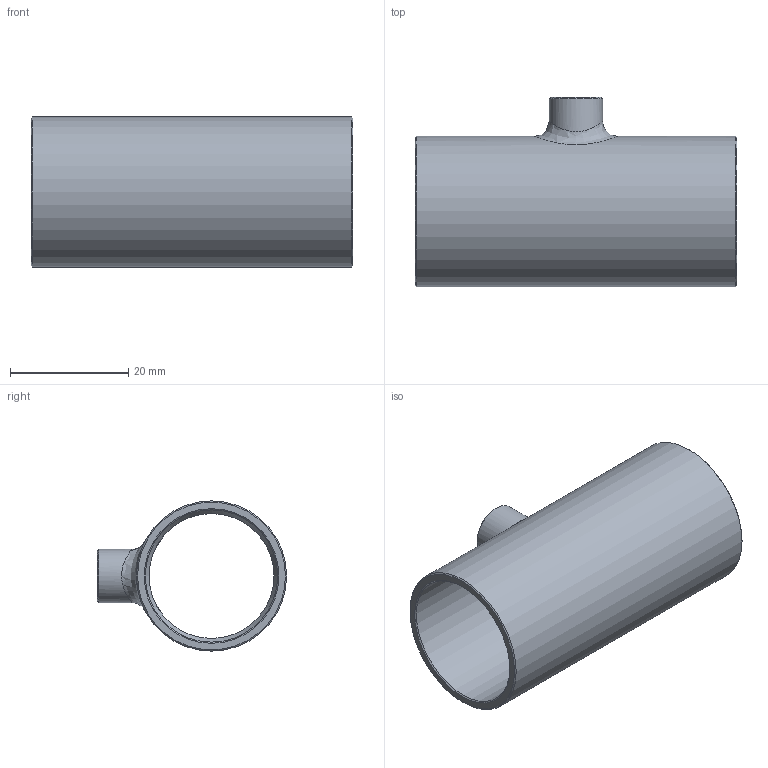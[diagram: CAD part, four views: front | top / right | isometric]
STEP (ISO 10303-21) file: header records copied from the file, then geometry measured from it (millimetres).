
FILE_DESCRIPTION((''),'2;1');
FILE_NAME('G:\SANHA-Ternat\Technik\Management\Bouwmaten + markeringen\z-maattekeningen 3D\29000s\29130781478_3d.stp','2018-06-04T09:43:32',('vdvijverd'),(''),'Autodesk Inventor 2009','Autodesk Inventor 2009','');
FILE_SCHEMA(('AUTOMOTIVE_DESIGN { 1 0 10303 214 1 1 1 1 }'));
Length unit declared in the file: millimetre
Products named in the file (1): 29130781478_3d
Bounding box: 54.4 x 32 x 25.4 mm (x, y, z)
Volume: 7228.9 mm3; surface area: 8580.3 mm2
Topology: 1 solids, 1 shells, 22 faces, 51 edges, 31 vertices
Faces by surface type: cone 8, cylinder 7, bspline 4, plane 3
Full cylindrical faces by diameter (mm): 6.47 x1, 9.03 x1, 21.12 x1, 22.375 x1, 25.4 x1
Entity records: 1827 total; most frequent: CARTESIAN_POINT 1410, DIRECTION 80, ORIENTED_EDGE 58, EDGE_LOOP 42, AXIS2_PLACEMENT_3D 40, EDGE_CURVE 29, VERTEX_POINT 25, FACE_OUTER_BOUND 22
